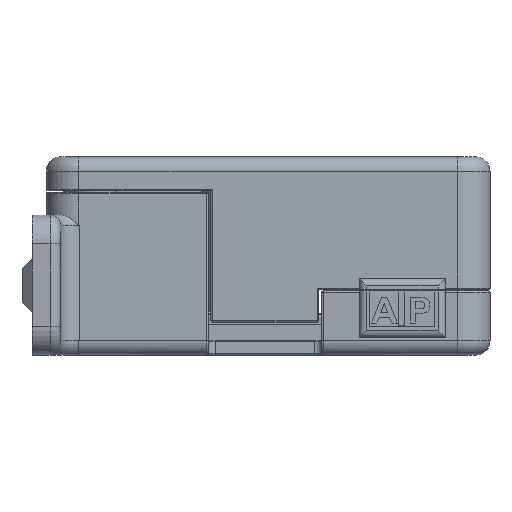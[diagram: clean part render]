
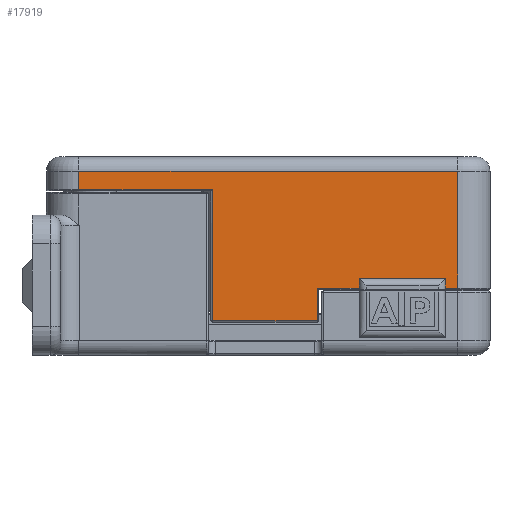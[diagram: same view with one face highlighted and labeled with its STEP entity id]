
A CAD part, left-side view. The second image highlights one B-rep face of the part: STEP entity #17919.
In plain terms, the highlighted planar face has unit normal (-1, 0, 0).
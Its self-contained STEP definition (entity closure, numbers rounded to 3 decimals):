
#1134=PLANE('',#19225);
#1863=FACE_OUTER_BOUND('',#2983,.T.);
#2983=EDGE_LOOP('',(#14575,#14576,#14577,#14578,#14579,#14580,#14581,#14582,
#14583,#14584,#14585,#14586));
#5131=LINE('',#42754,#6539);
#5135=LINE('',#42767,#6543);
#5138=LINE('',#42775,#6546);
#5142=LINE('',#42788,#6550);
#5143=LINE('',#42790,#6551);
#5144=LINE('',#42792,#6552);
#5145=LINE('',#42794,#6553);
#5146=LINE('',#42796,#6554);
#5147=LINE('',#42798,#6555);
#5148=LINE('',#42800,#6556);
#5149=LINE('',#42802,#6557);
#5150=LINE('',#42803,#6558);
#6539=VECTOR('',#22480,10.);
#6543=VECTOR('',#22492,10.);
#6546=VECTOR('',#22499,10.);
#6550=VECTOR('',#22515,10.);
#6551=VECTOR('',#22516,10.);
#6552=VECTOR('',#22517,10.);
#6553=VECTOR('',#22518,10.);
#6554=VECTOR('',#22519,10.);
#6555=VECTOR('',#22520,10.);
#6556=VECTOR('',#22521,10.);
#6557=VECTOR('',#22522,10.);
#6558=VECTOR('',#22523,10.);
#8115=VERTEX_POINT('',#42752);
#8116=VERTEX_POINT('',#42753);
#8121=VERTEX_POINT('',#42765);
#8124=VERTEX_POINT('',#42773);
#8127=VERTEX_POINT('',#42787);
#8128=VERTEX_POINT('',#42789);
#8129=VERTEX_POINT('',#42791);
#8130=VERTEX_POINT('',#42793);
#8131=VERTEX_POINT('',#42795);
#8132=VERTEX_POINT('',#42797);
#8133=VERTEX_POINT('',#42799);
#8134=VERTEX_POINT('',#42801);
#10348=EDGE_CURVE('',#8115,#8116,#5131,.T.);
#10355=EDGE_CURVE('',#8116,#8121,#5135,.T.);
#10359=EDGE_CURVE('',#8121,#8124,#5138,.T.);
#10365=EDGE_CURVE('',#8127,#8124,#5142,.T.);
#10366=EDGE_CURVE('',#8128,#8127,#5143,.T.);
#10367=EDGE_CURVE('',#8129,#8128,#5144,.T.);
#10368=EDGE_CURVE('',#8130,#8129,#5145,.T.);
#10369=EDGE_CURVE('',#8131,#8130,#5146,.T.);
#10370=EDGE_CURVE('',#8132,#8131,#5147,.T.);
#10371=EDGE_CURVE('',#8133,#8132,#5148,.T.);
#10372=EDGE_CURVE('',#8134,#8133,#5149,.T.);
#10373=EDGE_CURVE('',#8115,#8134,#5150,.T.);
#14575=ORIENTED_EDGE('',*,*,#10348,.T.);
#14576=ORIENTED_EDGE('',*,*,#10355,.T.);
#14577=ORIENTED_EDGE('',*,*,#10359,.T.);
#14578=ORIENTED_EDGE('',*,*,#10365,.F.);
#14579=ORIENTED_EDGE('',*,*,#10366,.F.);
#14580=ORIENTED_EDGE('',*,*,#10367,.F.);
#14581=ORIENTED_EDGE('',*,*,#10368,.F.);
#14582=ORIENTED_EDGE('',*,*,#10369,.F.);
#14583=ORIENTED_EDGE('',*,*,#10370,.F.);
#14584=ORIENTED_EDGE('',*,*,#10371,.F.);
#14585=ORIENTED_EDGE('',*,*,#10372,.F.);
#14586=ORIENTED_EDGE('',*,*,#10373,.F.);
#17919=ADVANCED_FACE('',(#1863),#1134,.T.);
#19225=AXIS2_PLACEMENT_3D('',#42786,#22513,#22514);
#22480=DIRECTION('',(0.,0.,1.));
#22492=DIRECTION('',(0.,-1.,0.));
#22499=DIRECTION('',(0.,0.,-1.));
#22513=DIRECTION('center_axis',(-1.,0.,0.));
#22514=DIRECTION('ref_axis',(0.,-1.,0.));
#22515=DIRECTION('',(0.,1.,0.));
#22516=DIRECTION('',(0.,0.,-1.));
#22517=DIRECTION('',(0.,-1.,0.));
#22518=DIRECTION('',(0.,0.,1.));
#22519=DIRECTION('',(0.,1.,0.));
#22520=DIRECTION('',(0.,0.,1.));
#22521=DIRECTION('',(0.,1.,0.));
#22522=DIRECTION('',(0.,0.,-1.));
#22523=DIRECTION('',(0.,1.,0.));
#42752=CARTESIAN_POINT('',(-45.1,-12.399,9.333));
#42753=CARTESIAN_POINT('',(-45.1,-12.399,10.633));
#42754=CARTESIAN_POINT('',(-45.1,-12.399,5.316));
#42765=CARTESIAN_POINT('',(-45.1,-24.399,10.633));
#42767=CARTESIAN_POINT('',(-45.1,3.35,10.633));
#42773=CARTESIAN_POINT('',(-45.1,-24.399,9.333));
#42775=CARTESIAN_POINT('',(-45.1,-24.399,4.566));
#42786=CARTESIAN_POINT('Origin',(-45.1,31.1,0.));
#42787=CARTESIAN_POINT('',(-45.1,-26.1,9.333));
#42788=CARTESIAN_POINT('',(-45.1,15.675,9.333));
#42789=CARTESIAN_POINT('',(-45.1,-26.1,25.6));
#42790=CARTESIAN_POINT('',(-45.1,-26.1,0.));
#42791=CARTESIAN_POINT('',(-45.1,26.6,25.6));
#42792=CARTESIAN_POINT('',(-45.1,15.675,25.6));
#42793=CARTESIAN_POINT('',(-45.1,26.6,23.05));
#42794=CARTESIAN_POINT('',(-45.1,26.6,0.));
#42795=CARTESIAN_POINT('',(-45.1,8.012,23.05));
#42796=CARTESIAN_POINT('',(-45.1,15.675,23.05));
#42797=CARTESIAN_POINT('',(-45.1,8.012,4.8));
#42798=CARTESIAN_POINT('',(-45.1,8.012,2.3));
#42799=CARTESIAN_POINT('',(-45.1,-6.588,4.8));
#42800=CARTESIAN_POINT('',(-45.1,12.256,4.8));
#42801=CARTESIAN_POINT('',(-45.1,-6.588,9.333));
#42802=CARTESIAN_POINT('',(-45.1,-6.588,2.3));
#42803=CARTESIAN_POINT('',(-45.1,15.675,9.333));
